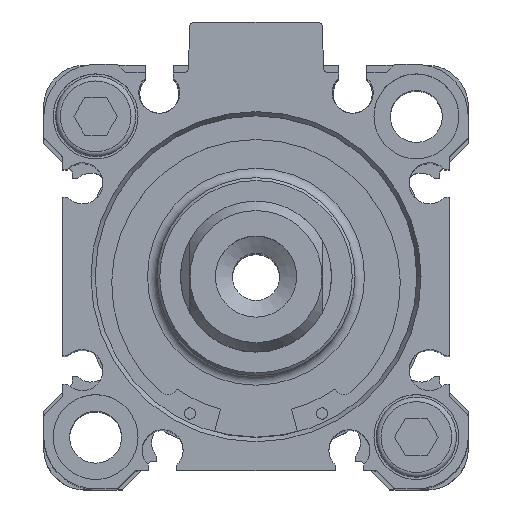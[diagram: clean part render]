
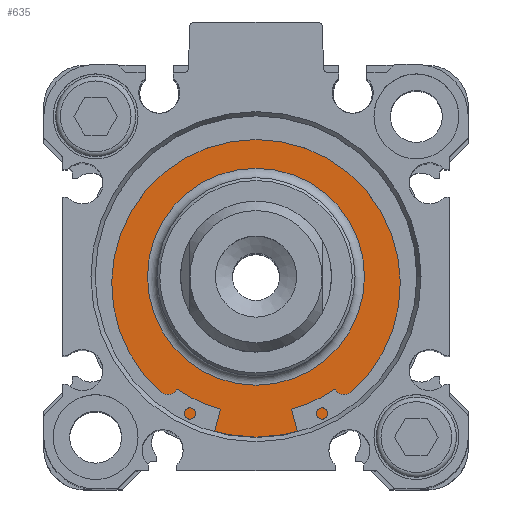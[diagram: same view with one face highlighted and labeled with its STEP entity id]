
A CAD part, top view. The second image highlights one B-rep face of the part: STEP entity #635.
In plain terms, the highlighted planar face has unit normal (0, 0, 1).
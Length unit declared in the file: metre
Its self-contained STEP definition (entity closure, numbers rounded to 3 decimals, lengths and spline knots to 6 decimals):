
#635 = ADVANCED_FACE( '', ( #1368, #1369 ), #1370, .T. );
#1368 = FACE_OUTER_BOUND( '', #2941, .T. );
#1369 = FACE_BOUND( '', #2942, .T. );
#1370 = PLANE( '', #2943 );
#2941 = EDGE_LOOP( '', ( #4580 ) );
#2942 = EDGE_LOOP( '', ( #4581 ) );
#2943 = AXIS2_PLACEMENT_3D( '', #4582, #4583, #4584 );
#4580 = ORIENTED_EDGE( '', *, *, #8699, .F. );
#4581 = ORIENTED_EDGE( '', *, *, #8698, .F. );
#4582 = CARTESIAN_POINT( '', ( 0., 0., 0.0515 ) );
#4583 = DIRECTION( '', ( 0., 0., 1. ) );
#4584 = DIRECTION( '', ( 1., 0., 0. ) );
#8698 = EDGE_CURVE( '', #9869, #9869, #9870, .T. );
#8699 = EDGE_CURVE( '', #9871, #9871, #9872, .T. );
#9869 = VERTEX_POINT( '', #11786 );
#9870 = CIRCLE( '', #11787, 0.0115 );
#9871 = VERTEX_POINT( '', #11788 );
#9872 = CIRCLE( '', #11789, 0.017 );
#11786 = CARTESIAN_POINT( '', ( 0., -0.0115, 0.0515 ) );
#11787 = AXIS2_PLACEMENT_3D( '', #14654, #14655, #14656 );
#11788 = CARTESIAN_POINT( '', ( 0., 0.017, 0.0515 ) );
#11789 = AXIS2_PLACEMENT_3D( '', #14657, #14658, #14659 );
#14654 = CARTESIAN_POINT( '', ( 0., 0., 0.0515 ) );
#14655 = DIRECTION( '', ( 0., 0., 1. ) );
#14656 = DIRECTION( '', ( 0., -1., 0. ) );
#14657 = CARTESIAN_POINT( '', ( 0., 0., 0.0515 ) );
#14658 = DIRECTION( '', ( 0., 0., -1. ) );
#14659 = DIRECTION( '', ( 0., 1., 0. ) );
